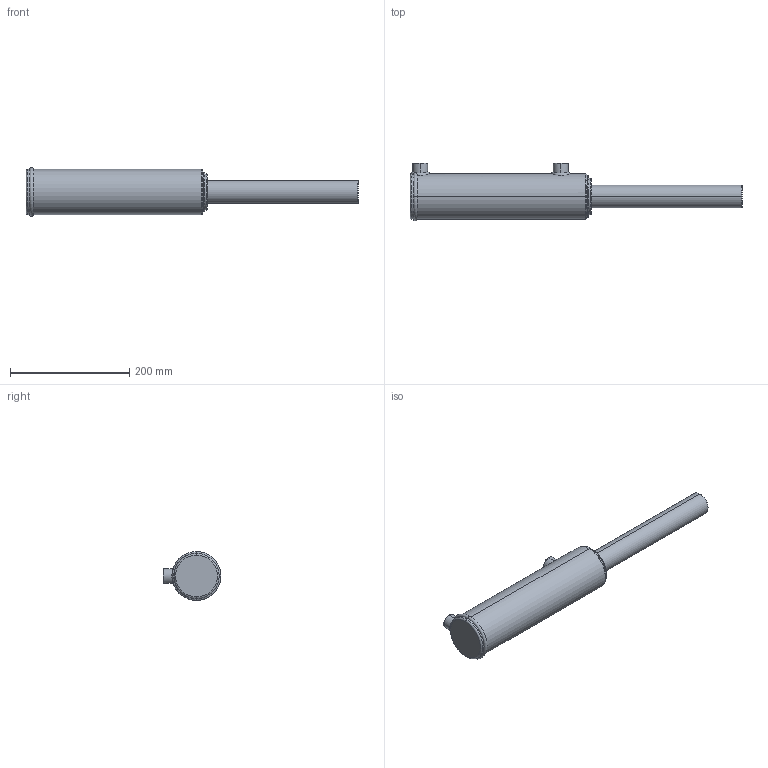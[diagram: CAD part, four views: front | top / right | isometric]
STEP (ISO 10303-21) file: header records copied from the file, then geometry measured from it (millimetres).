
FILE_DESCRIPTION (( 'STEP AP203' ), '1' );
FILE_NAME ('BL250150x203 (8) extended.STEP', '2014-11-25T01:05:36', ( '' ), ( '' ), 'SwSTEP 2.0', 'SolidWorks 2014', '' );
FILE_SCHEMA (( 'CONFIG_CONTROL_DESIGN' ));
Length unit declared in the file: millimetre
Products named in the file (3): BL250150x203 (8) extended; BL body 2.5_2.5x8; Spare_2.5x8
Assembly tree (2 placements, depth 2):
  BL250150x203 (8) extended
    BL body 2.5_2.5x8
    Spare_2.5x8
Bounding box: 557 x 97.2 x 82.2 mm (x, y, z)
Volume: 1449438.6 mm3; surface area: 155776.6 mm2
Topology: 2 solids, 2 shells, 88 faces, 205 edges, 126 vertices
Faces by surface type: cylinder 32, plane 20, torus 18, bspline 10, cone 8
Entity records: 5772 total; most frequent: CARTESIAN_POINT 3521, DIRECTION 422, ORIENTED_EDGE 402, EDGE_CURVE 201, AXIS2_PLACEMENT_3D 182, VERTEX_POINT 126, EDGE_LOOP 101, CIRCLE 99
